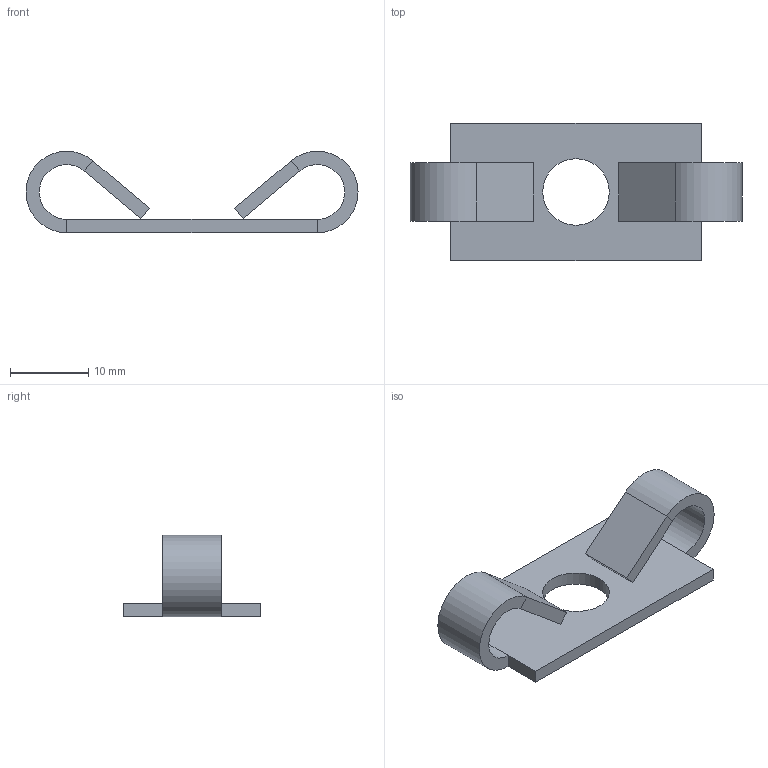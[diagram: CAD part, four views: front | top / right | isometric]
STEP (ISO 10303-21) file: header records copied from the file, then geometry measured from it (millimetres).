
FILE_DESCRIPTION (( 'STEP AP203' ), '1' );
FILE_NAME ('70-CE-PRC-40.STEP', '2015-07-09T08:21:58', ( '' ), ( '' ), 'SwSTEP 2.0', 'SolidWorks 2013', '' );
FILE_SCHEMA (( 'CONFIG_CONTROL_DESIGN' ));
Length unit declared in the file: millimetre
Products named in the file (1): 70-CE-PRC-40
Bounding box: 42.4 x 17.5 x 10.4 mm (x, y, z)
Volume: 1521.6 mm3; surface area: 2181.4 mm2
Topology: 1 solids, 1 shells, 28 faces, 62 edges, 36 vertices
Faces by surface type: plane 22, cylinder 6
Entity records: 831 total; most frequent: DIRECTION 132, CARTESIAN_POINT 127, ORIENTED_EDGE 124, EDGE_CURVE 62, LINE 50, VECTOR 50, AXIS2_PLACEMENT_3D 41, VERTEX_POINT 36
